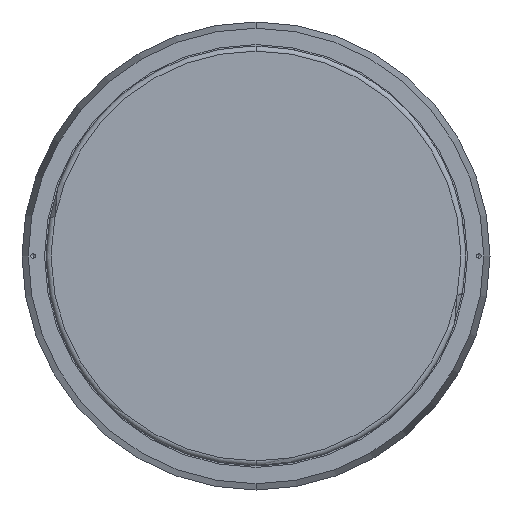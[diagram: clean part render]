
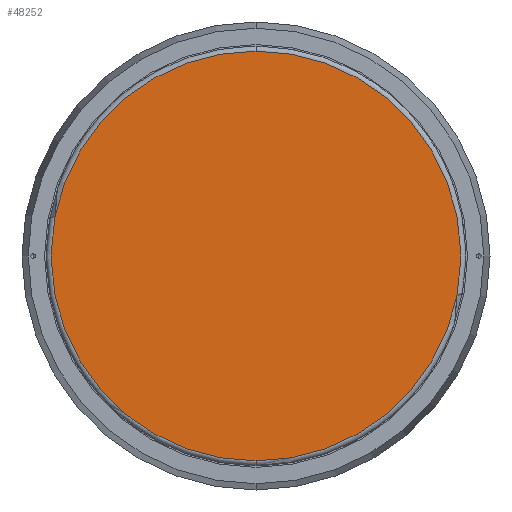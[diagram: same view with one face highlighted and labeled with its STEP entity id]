
A CAD part, front view. The second image highlights one B-rep face of the part: STEP entity #48252.
In plain terms, the highlighted planar face has unit normal (0, -1, 0).
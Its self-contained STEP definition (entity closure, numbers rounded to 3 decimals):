
#414 = CARTESIAN_POINT ( 'NONE',  ( 624.85, 0., 13.904 ) ) ;
#2073 = DIRECTION ( 'NONE',  ( 0., 0., 1. ) ) ;
#3212 = CARTESIAN_POINT ( 'NONE',  ( 625., 0., 13.785 ) ) ;
#5308 = CARTESIAN_POINT ( 'NONE',  ( 624.845, 0., -13.908 ) ) ;
#5786 = VERTEX_POINT ( 'NONE', #174850 ) ;
#7552 = CARTESIAN_POINT ( 'NONE',  ( -624.86, 0., 13.896 ) ) ;
#10114 = CARTESIAN_POINT ( 'NONE',  ( 625., 0., 0. ) ) ;
#14237 = CARTESIAN_POINT ( 'NONE',  ( 625., 0., -13.785 ) ) ;
#14598 = CARTESIAN_POINT ( 'NONE',  ( -150., 0., 8. ) ) ;
#15701 = CARTESIAN_POINT ( 'NONE',  ( 624.845, 0., 13.908 ) ) ;
#17429 = DIRECTION ( 'NONE',  ( 0., 0., 1. ) ) ;
#19214 = ORIENTED_EDGE ( 'NONE', *, *, #163152, .F. ) ;
#20274 = EDGE_LOOP ( 'NONE', ( #43607, #112222, #196307, #98610, #71185, #219417, #111095, #115969, #151252, #108731, #211284, #19214 ) ) ;
#22222 = EDGE_CURVE ( 'NONE', #113983, #130502, #78314, .T. ) ;
#25757 = DIRECTION ( 'NONE',  ( 0., 1., 0. ) ) ;
#26847 = CARTESIAN_POINT ( 'NONE',  ( -624.953, 0., 13.822 ) ) ;
#28334 = VERTEX_POINT ( 'NONE', #10114 ) ;
#29711 = CARTESIAN_POINT ( 'NONE',  ( -625., 0., 13.785 ) ) ;
#30062 = LINE ( 'NONE', #218074, #229017 ) ;
#33931 = DIRECTION ( 'NONE',  ( 0., 0., -1. ) ) ;
#35331 = CARTESIAN_POINT ( 'NONE',  ( 624.845, 0., -13.908 ) ) ;
#37743 = CARTESIAN_POINT ( 'NONE',  ( -624.86, 0., -13.896 ) ) ;
#38093 = B_SPLINE_CURVE_WITH_KNOTS ( 'NONE', 3,
 ( #64801, #199508, #122741, #7552, #142154, #26847, #161571 ),
 .UNSPECIFIED., .F., .F.,
 ( 4, 3, 4 ),
 ( 0., 0., 0. ),
 .UNSPECIFIED. ) ;
#43137 = CIRCLE ( 'NONE', #101389, 625. ) ;
#43607 = ORIENTED_EDGE ( 'NONE', *, *, #82376, .F. ) ;
#48107 = DIRECTION ( 'NONE',  ( 0., 0., 1. ) ) ;
#48252 = ADVANCED_FACE ( 'NONE', ( #197174 ), #51657, .T. ) ;
#51657 = PLANE ( 'NONE',  #109526 ) ;
#54724 = CARTESIAN_POINT ( 'NONE',  ( 624.907, 0., -13.859 ) ) ;
#55571 = CARTESIAN_POINT ( 'NONE',  ( 625., 0., 13.91 ) ) ;
#57128 = CARTESIAN_POINT ( 'NONE',  ( -624.85, 0., -13.904 ) ) ;
#64801 = CARTESIAN_POINT ( 'NONE',  ( -624.845, 0., 13.908 ) ) ;
#68209 = CARTESIAN_POINT ( 'NONE',  ( 0., 0., -625. ) ) ;
#68584 = EDGE_CURVE ( 'NONE', #160226, #154816, #148927, .T. ) ;
#71185 = ORIENTED_EDGE ( 'NONE', *, *, #90868, .T. ) ;
#71354 = EDGE_CURVE ( 'NONE', #160226, #113983, #43137, .T. ) ;
#73224 = CARTESIAN_POINT ( 'NONE',  ( 624.85, 0., -13.904 ) ) ;
#74077 = CARTESIAN_POINT ( 'NONE',  ( 625., 0., -13.785 ) ) ;
#77008 = CARTESIAN_POINT ( 'NONE',  ( 625., 0., 13.785 ) ) ;
#78314 = CIRCLE ( 'NONE', #80067, 625. ) ;
#80067 = AXIS2_PLACEMENT_3D ( 'NONE', #248232, #132619, #17429 ) ;
#81016 = DIRECTION ( 'NONE',  ( 0., 0., 1. ) ) ;
#82100 = CARTESIAN_POINT ( 'NONE',  ( -625., 0., 0. ) ) ;
#82376 = EDGE_CURVE ( 'NONE', #213630, #5786, #109650, .T. ) ;
#82995 = CARTESIAN_POINT ( 'NONE',  ( -625., 0., -13.785 ) ) ;
#84636 = CARTESIAN_POINT ( 'NONE',  ( 0., 0., 0. ) ) ;
#85770 = CARTESIAN_POINT ( 'NONE',  ( -624.845, 0., -13.908 ) ) ;
#90868 = EDGE_CURVE ( 'NONE', #135455, #130502, #202152, .T. ) ;
#91760 = VERTEX_POINT ( 'NONE', #82100 ) ;
#96334 = CARTESIAN_POINT ( 'NONE',  ( 624.907, 0., 13.859 ) ) ;
#98610 = ORIENTED_EDGE ( 'NONE', *, *, #181073, .F. ) ;
#101389 = AXIS2_PLACEMENT_3D ( 'NONE', #84636, #219447, #103958 ) ;
#102549 = DIRECTION ( 'NONE',  ( 0., 0., 1. ) ) ;
#103958 = DIRECTION ( 'NONE',  ( 0., 0., 1. ) ) ;
#104126 = LINE ( 'NONE', #157615, #245843 ) ;
#104463 = EDGE_CURVE ( 'NONE', #28334, #123161, #196835, .T. ) ;
#108731 = ORIENTED_EDGE ( 'NONE', *, *, #104463, .T. ) ;
#109526 = AXIS2_PLACEMENT_3D ( 'NONE', #14598, #149242, #33931 ) ;
#109650 = CIRCLE ( 'NONE', #189703, 625. ) ;
#111095 = ORIENTED_EDGE ( 'NONE', *, *, #71354, .F. ) ;
#112222 = ORIENTED_EDGE ( 'NONE', *, *, #131464, .T. ) ;
#113983 = VERTEX_POINT ( 'NONE', #68209 ) ;
#114271 = CARTESIAN_POINT ( 'NONE',  ( -625., 0., -13.785 ) ) ;
#115634 = CARTESIAN_POINT ( 'NONE',  ( 624.855, 0., 13.9 ) ) ;
#115969 = ORIENTED_EDGE ( 'NONE', *, *, #68584, .T. ) ;
#116704 = VERTEX_POINT ( 'NONE', #29711 ) ;
#117251 = DIRECTION ( 'NONE',  ( 0., 1., 0. ) ) ;
#122741 = CARTESIAN_POINT ( 'NONE',  ( -624.855, 0., 13.9 ) ) ;
#123161 = VERTEX_POINT ( 'NONE', #3212 ) ;
#130502 = VERTEX_POINT ( 'NONE', #85770 ) ;
#131464 = EDGE_CURVE ( 'NONE', #213630, #116704, #38093, .T. ) ;
#132619 = DIRECTION ( 'NONE',  ( 0., 1., 0. ) ) ;
#134971 = CARTESIAN_POINT ( 'NONE',  ( 624.845, 0., 13.908 ) ) ;
#135455 = VERTEX_POINT ( 'NONE', #82995 ) ;
#141005 = CARTESIAN_POINT ( 'NONE',  ( 0., 0., 0. ) ) ;
#142154 = CARTESIAN_POINT ( 'NONE',  ( -624.907, 0., 13.859 ) ) ;
#145760 = EDGE_CURVE ( 'NONE', #91760, #116704, #104126, .T. ) ;
#146821 = LINE ( 'NONE', #163431, #243424 ) ;
#148927 = B_SPLINE_CURVE_WITH_KNOTS ( 'NONE', 3,
 ( #35331, #73224, #169197, #170046, #54724, #189406, #74077 ),
 .UNSPECIFIED., .F., .F.,
 ( 4, 3, 4 ),
 ( 0., 0., 0. ),
 .UNSPECIFIED. ) ;
#149242 = DIRECTION ( 'NONE',  ( 0., -1., 0. ) ) ;
#151096 = EDGE_CURVE ( 'NONE', #154816, #28334, #146821, .T. ) ;
#151252 = ORIENTED_EDGE ( 'NONE', *, *, #151096, .T. ) ;
#153028 = CARTESIAN_POINT ( 'NONE',  ( -624.907, 0., -13.859 ) ) ;
#154816 = VERTEX_POINT ( 'NONE', #14237 ) ;
#157615 = CARTESIAN_POINT ( 'NONE',  ( -625., 0., 13.91 ) ) ;
#158297 = CIRCLE ( 'NONE', #165069, 625. ) ;
#160226 = VERTEX_POINT ( 'NONE', #5308 ) ;
#160421 = DIRECTION ( 'NONE',  ( 0., 0., 1. ) ) ;
#161571 = CARTESIAN_POINT ( 'NONE',  ( -625., 0., 13.785 ) ) ;
#163152 = EDGE_CURVE ( 'NONE', #5786, #244547, #158297, .T. ) ;
#163431 = CARTESIAN_POINT ( 'NONE',  ( 625., 0., 13.91 ) ) ;
#165069 = AXIS2_PLACEMENT_3D ( 'NONE', #141005, #25757, #160421 ) ;
#169197 = CARTESIAN_POINT ( 'NONE',  ( 624.855, 0., -13.9 ) ) ;
#170046 = CARTESIAN_POINT ( 'NONE',  ( 624.86, 0., -13.896 ) ) ;
#172448 = CARTESIAN_POINT ( 'NONE',  ( -624.855, 0., -13.9 ) ) ;
#174850 = CARTESIAN_POINT ( 'NONE',  ( 0., 0., 625. ) ) ;
#181073 = EDGE_CURVE ( 'NONE', #135455, #91760, #30062, .T. ) ;
#189310 = CARTESIAN_POINT ( 'NONE',  ( -624.953, 0., -13.822 ) ) ;
#189406 = CARTESIAN_POINT ( 'NONE',  ( 624.953, 0., -13.822 ) ) ;
#189703 = AXIS2_PLACEMENT_3D ( 'NONE', #232806, #117251, #2073 ) ;
#191819 = CARTESIAN_POINT ( 'NONE',  ( -624.845, 0., -13.908 ) ) ;
#196307 = ORIENTED_EDGE ( 'NONE', *, *, #145760, .F. ) ;
#196835 = LINE ( 'NONE', #55571, #242108 ) ;
#197174 = FACE_OUTER_BOUND ( 'NONE', #20274, .T. ) ;
#197759 = CARTESIAN_POINT ( 'NONE',  ( -624.845, 0., 13.908 ) ) ;
#199508 = CARTESIAN_POINT ( 'NONE',  ( -624.85, 0., 13.904 ) ) ;
#202152 = B_SPLINE_CURVE_WITH_KNOTS ( 'NONE', 3,
 ( #114271, #189310, #153028, #37743, #172448, #57128, #191819 ),
 .UNSPECIFIED., .F., .F.,
 ( 4, 3, 4 ),
 ( 0., 0., 0. ),
 .UNSPECIFIED. ) ;
#204420 = B_SPLINE_CURVE_WITH_KNOTS ( 'NONE', 3,
 ( #77008, #211780, #96334, #231197, #115634, #414, #134971 ),
 .UNSPECIFIED., .F., .F.,
 ( 4, 3, 4 ),
 ( 0., 0., 0. ),
 .UNSPECIFIED. ) ;
#209678 = DIRECTION ( 'NONE',  ( 0., 0., 1. ) ) ;
#211284 = ORIENTED_EDGE ( 'NONE', *, *, #232085, .T. ) ;
#211780 = CARTESIAN_POINT ( 'NONE',  ( 624.953, 0., 13.822 ) ) ;
#213630 = VERTEX_POINT ( 'NONE', #197759 ) ;
#218074 = CARTESIAN_POINT ( 'NONE',  ( -625., 0., 13.91 ) ) ;
#219417 = ORIENTED_EDGE ( 'NONE', *, *, #22222, .F. ) ;
#219447 = DIRECTION ( 'NONE',  ( 0., 1., 0. ) ) ;
#229017 = VECTOR ( 'NONE', #102549, 1000. ) ;
#231197 = CARTESIAN_POINT ( 'NONE',  ( 624.86, 0., 13.896 ) ) ;
#232085 = EDGE_CURVE ( 'NONE', #123161, #244547, #204420, .T. ) ;
#232806 = CARTESIAN_POINT ( 'NONE',  ( 0., 0., 0. ) ) ;
#242108 = VECTOR ( 'NONE', #209678, 1000. ) ;
#243424 = VECTOR ( 'NONE', #48107, 1000. ) ;
#244547 = VERTEX_POINT ( 'NONE', #15701 ) ;
#245843 = VECTOR ( 'NONE', #81016, 1000. ) ;
#248232 = CARTESIAN_POINT ( 'NONE',  ( 0., 0., 0. ) ) ;
